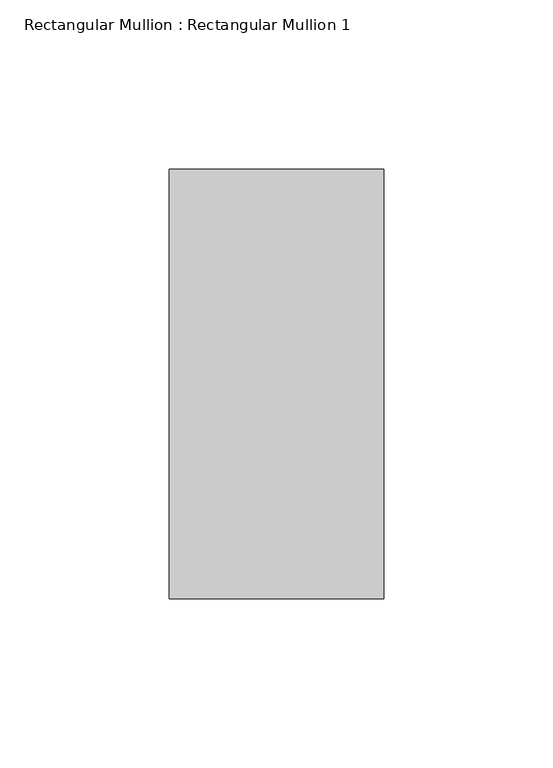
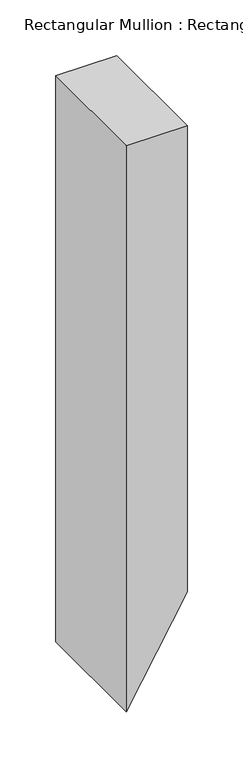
"""IFC4 building model written with IfcOpenShell, lengths in millimetres: member geometry, Rectangular Mullion : Rectangular Mullion 1."""

import ifcopenshell
import ifcopenshell.guid

model = None  # the IFC model being written
_history = None  # IfcOwnerHistory: only IFC2X3 demands one
_inside = {}  # id of a spatial element -> (the spatial element, [elements in it])
_under = {}  # id of a project, library or spatial element -> (it, [spatial elements below it])
_declared = {}  # id of a project -> (the project, [libraries it declares])
_typed = {}  # id of a type object -> (the type object, [elements of that type])
_made_of = {}  # id of a material, layer set ... -> (it, [elements and type objects made of it])


def new_model(schema):
    """Start an empty IFC model of exactly this schema.

    Asked for "IFC4X3", IfcOpenShell would pick the latest addendum, in which some entities
    have other attributes; the version numbers below select the first issue.
    IFC2X3 requires an IfcOwnerHistory on every rooted entity: one is made here for all.
    """
    global model, _history
    if schema == "IFC4X3":
        model = ifcopenshell.file(schema_version=(4, 3, 0, 0))
    else:
        model = ifcopenshell.file(schema=schema)
    _inside.clear()
    _under.clear()
    _declared.clear()
    _typed.clear()
    _made_of.clear()
    _history = None
    if model.schema == "IFC2X3":
        org = make("IfcOrganization", Name="unknown")
        user = make(
            "IfcPersonAndOrganization",
            ThePerson=make("IfcPerson", FamilyName="unknown"),
            TheOrganization=org,
        )
        app = make(
            "IfcApplication",
            ApplicationDeveloper=org,
            Version="unknown",
            ApplicationFullName="unknown",
            ApplicationIdentifier="unknown",
        )
        _history = make(
            "IfcOwnerHistory",
            OwningUser=user,
            OwningApplication=app,
            ChangeAction="ADDED",
            CreationDate=0,
        )
    return model


def make(cls, **values):
    """One entity of the class cls with the attributes given. An attribute that is None is left unset."""
    return model.create_entity(
        cls, **{name: value for name, value in values.items() if value is not None}
    )


def rooted(cls, **values):
    """An entity with a GlobalId (a new one), such as an element, a storey or a relation."""
    return make(cls, GlobalId=ifcopenshell.guid.new(), OwnerHistory=_history, **values)


def si_unit(unit_type, name, prefix=None):
    """IfcSIUnit, for example si_unit("LENGTHUNIT", "METRE", prefix="MILLI")."""
    return make("IfcSIUnit", UnitType=unit_type, Prefix=prefix, Name=name)


def assignment(units):
    """IfcUnitAssignment: the units of a project."""
    return None if units is None else make("IfcUnitAssignment", Units=units)


def point(xyz):
    """IfcCartesianPoint."""
    return None if xyz is None else make("IfcCartesianPoint", Coordinates=xyz)


def direction(xyz):
    """IfcDirection."""
    return None if xyz is None else make("IfcDirection", DirectionRatios=xyz)


def frame(location, z_axis=None, x_axis=None):
    """IfcAxis2Placement3D, a coordinate frame: its origin and axes. An axis left out is left unset."""
    return make(
        "IfcAxis2Placement3D",
        Location=point(location),
        Axis=direction(z_axis),
        RefDirection=direction(x_axis),
    )


def origin():
    """The frame at (0, 0, 0) with its axes left unset."""
    return frame((0.0, 0.0, 0.0))


def place(relative_to, where):
    """IfcLocalPlacement: puts the frame where relative to a parent placement (None: the world)."""
    return make(
        "IfcLocalPlacement", PlacementRelTo=relative_to, RelativePlacement=where
    )


def context(
    kind, dimensions, precision=None, world=None, true_north=None, identifier=None
):
    """IfcGeometricRepresentationContext, for example the 3D "Model" context."""
    return make(
        "IfcGeometricRepresentationContext",
        ContextIdentifier=identifier,
        ContextType=kind,
        CoordinateSpaceDimension=dimensions,
        Precision=precision,
        WorldCoordinateSystem=world,
        TrueNorth=true_north,
    )


def project(units=None, contexts=None):
    """IfcProject with its units and contexts."""
    return rooted(
        "IfcProject",
        Name="project",
        RepresentationContexts=contexts,
        UnitsInContext=assignment(units),
    )


def spatial(cls, under=None, at=None, **own):
    """A site, building, storey or space (cls), placed at a placement, below another one or the project."""
    s = rooted(cls, ObjectPlacement=at, **own)
    if under is not None:
        _under.setdefault(under.id(), (under, []))[1].append(s)
    return s


def polyline(points):
    """IfcPolyline through the points."""
    return make("IfcPolyline", Points=[point(p) for p in points])


def outline(outer, holes=None, kind="AREA"):
    """IfcArbitraryClosedProfileDef: a profile drawn as a closed curve; with holes, ...WithVoids."""
    if holes is None:
        return make("IfcArbitraryClosedProfileDef", ProfileType=kind, OuterCurve=outer)
    return make(
        "IfcArbitraryProfileDefWithVoids",
        ProfileType=kind,
        OuterCurve=outer,
        InnerCurves=holes,
    )


def extrude(swept, where, along, depth):
    """IfcExtrudedAreaSolid: the profile swept, set in the frame where, extruded along a direction by depth."""
    return make(
        "IfcExtrudedAreaSolid",
        SweptArea=swept,
        Position=where,
        ExtrudedDirection=direction(along),
        Depth=depth,
    )


def shape(context_of_items, identifier, shape_type, items):
    """IfcShapeRepresentation: the items that make up one representation, for example the "Body"."""
    return make(
        "IfcShapeRepresentation",
        ContextOfItems=context_of_items,
        RepresentationIdentifier=identifier,
        RepresentationType=shape_type,
        Items=items,
    )


def source(mapping_origin, context_of_items, identifier, shape_type, items):
    """IfcRepresentationMap: a shape defined once, which mapped items show again and again."""
    return make(
        "IfcRepresentationMap",
        MappingOrigin=mapping_origin,
        MappedRepresentation=shape(context_of_items, identifier, shape_type, items),
    )


def transform(
    local_origin,
    x_axis=None,
    y_axis=None,
    z_axis=None,
    scale=None,
    scale2=None,
    scale3=None,
    uniform=True,
):
    """IfcCartesianTransformationOperator3D, or its non-uniform kind. x_axis, y_axis, z_axis: its Axis1, 2, 3."""
    if uniform:
        return make(
            "IfcCartesianTransformationOperator3D",
            Axis1=direction(x_axis),
            Axis2=direction(y_axis),
            LocalOrigin=point(local_origin),
            Scale=scale,
            Axis3=direction(z_axis),
        )
    return make(
        "IfcCartesianTransformationOperator3DnonUniform",
        Axis1=direction(x_axis),
        Axis2=direction(y_axis),
        LocalOrigin=point(local_origin),
        Scale=scale,
        Axis3=direction(z_axis),
        Scale2=scale2,
        Scale3=scale3,
    )


def mapped(mapping_source, mapping_target):
    """IfcMappedItem: shows the shape of a source again, moved by a transform."""
    return make(
        "IfcMappedItem", MappingSource=mapping_source, MappingTarget=mapping_target
    )


def made_of(thing, what):
    """Note that an element or type object is made of a material, layer set ...; save() writes the relation."""
    if what is not None:
        _made_of.setdefault(what.id(), (what, []))[1].append(thing)
    return thing


def element(
    cls,
    number,
    at=None,
    inside=None,
    cuts=None,
    type_object=None,
    material=None,
    context=None,
    identifier="Body",
    shape_type=None,
    held_by="IfcProductDefinitionShape",
    body=None,
    shapes=None,
    **own,
):
    """One element of the class cls, such as IfcWall. Its Tag is "e" and its number.

    at: its placement. inside: the storey or other place that contains it. cuts: it is an
    opening in that element (IfcRelVoidsElement). A single representation is given by context,
    identifier, shape_type and body (its items); several are given by shapes. held_by: the class
    of the entity that holds the representations. save() writes the other relations.
    """
    e = rooted(cls, Tag="e%d" % number, ObjectPlacement=at, **own)
    if body is not None:
        shapes = [shape(context, identifier, shape_type, body)]
    if shapes is not None:
        e.Representation = make(held_by, Representations=shapes)
    if inside is not None:
        _inside.setdefault(inside.id(), (inside, []))[1].append(e)
    if cuts is not None:
        rooted(
            "IfcRelVoidsElement", RelatingBuildingElement=cuts, RelatedOpeningElement=e
        )
    if type_object is not None:
        _typed.setdefault(type_object.id(), (type_object, []))[1].append(e)
    return made_of(e, material)


def aggregate(whole, parts):
    """IfcRelAggregates: a whole, such as a stair, and the parts it consists of."""
    return rooted("IfcRelAggregates", RelatingObject=whole, RelatedObjects=parts)


def save(model, path):
    """Write the relations noted so far, then the file.

    IfcRelAggregates (storeys below a building ...), IfcRelContainedInSpatialStructure (elements
    in a storey), IfcRelDefinesByType, IfcRelAssociatesMaterial and IfcRelDeclares: one each for
    every whole, place, type object, material and project.
    """
    for whole, parts in _under.values():
        aggregate(whole, parts)
    for where, things in _inside.values():
        rooted(
            "IfcRelContainedInSpatialStructure",
            RelatedElements=things,
            RelatingStructure=where,
        )
    for kind, things in _typed.values():
        rooted("IfcRelDefinesByType", RelatedObjects=things, RelatingType=kind)
    for what, things in _made_of.values():
        rooted("IfcRelAssociatesMaterial", RelatedObjects=things, RelatingMaterial=what)
    for by, libraries in _declared.values():
        rooted("IfcRelDeclares", RelatingContext=by, RelatedDefinitions=libraries)
    model.write(path)


def rectangular_mullion_rectangular_mullion_1_3224573d(model_context):
    return source(origin(), model_context, "Body", "SweptSolid", [
        extrude(outline(polyline([(0.0, 31.75), (0.0, -31.75), (-622.9762686, -31.75), (-512.9910423, 31.75), (0.0, 31.75)])), frame((0.0, -63.5, 0.0), z_axis=(0.0, 1.0, 0.0), x_axis=(0.0, 0.0, 1.0)), (0.0, 0.0, 1.0), 127.0),
    ])


if __name__ == "__main__":
    model = new_model("IFC4")
    model_context = context("Model", 3, world=origin())
    ifc_project = project(units=[si_unit("LENGTHUNIT", "METRE", prefix="MILLI")], contexts=[model_context])
    site = spatial("IfcSite", under=ifc_project)
    building = spatial("IfcBuilding", under=site)
    placement = place(None, origin())
    rectangular_mullion_rectangular_mullion_1_shape = rectangular_mullion_rectangular_mullion_1_3224573d(model_context)
    element("IfcMember", 1, ObjectType="Rectangular Mullion : Rectangular Mullion 1", at=placement, inside=building, context=model_context, shape_type="MappedRepresentation", body=[
        mapped(rectangular_mullion_rectangular_mullion_1_shape, transform((0.0, 0.0, 0.0), x_axis=(1.0, 0.0, 0.0), y_axis=(0.0, 1.0, 0.0), z_axis=(0.0, 0.0, 1.0))),
    ])
    save(model, "model.ifc")
